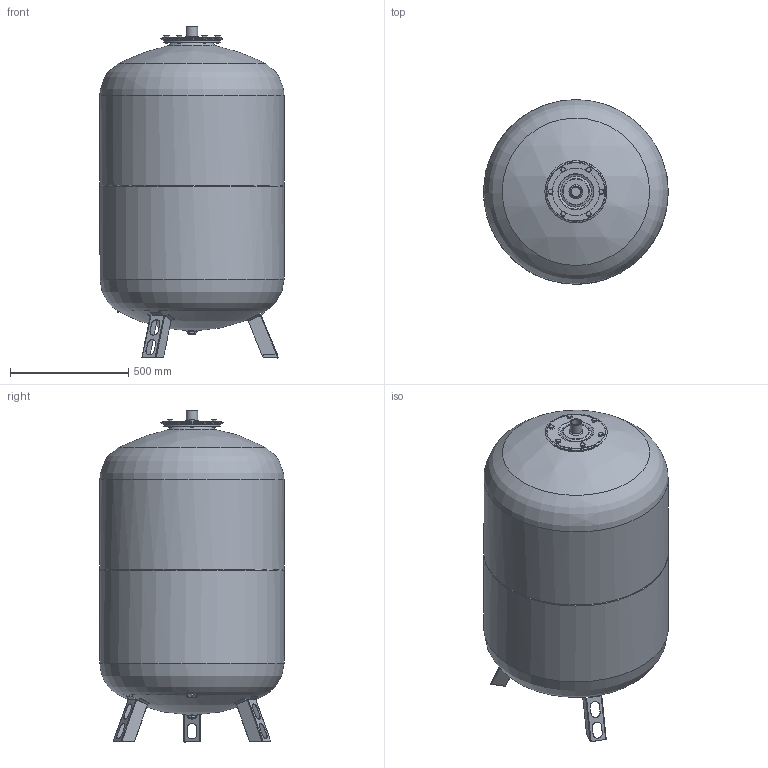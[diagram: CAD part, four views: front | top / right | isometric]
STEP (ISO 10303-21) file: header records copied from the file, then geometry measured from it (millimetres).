
FILE_DESCRIPTION(('STEP AP214'), '1');
FILE_NAME('WAV-500', '', ('UNSPECIFIED'), ('UNSPECIFIED'), 'ASCON STEP Converter 1.3', 'ASCON Math Kernel', '');
FILE_SCHEMA(('AUTOMOTIVE_DESIGN { 1 0 10303 214 3 1 1}'));
Length unit declared in the file: millimetre
Bounding box: 781.41 x 782.15 x 1405 mm (x, y, z)
Volume: 513565780.1 mm3; surface area: 3648170.7 mm2
Topology: 1 solids, 2 shells, 376 faces, 1016 edges, 671 vertices
Faces by surface type: plane 224, cylinder 83, cone 53, torus 13, sphere 2, bspline 1
Full cylindrical faces by diameter (mm): 3 x1, 4 x1, 4.3 x1, 5.5 x1, 8 x2, 12 x13, 13 x6, 18.6 x1, 26.4 x1, 38.952 x1, 47 x1, 48 x1, 49 x1, 200 x1, 240 x1, 780 x2
Entity records: 18107 total; most frequent: CARTESIAN_POINT 5801, DIRECTION 1879, ORIENTED_EDGE 1864, EDGE_CURVE 932, AXIS2_PLACEMENT_3D 717, VERTEX_POINT 670, EDGE_LOOP 526, FACE_BOUND 482
